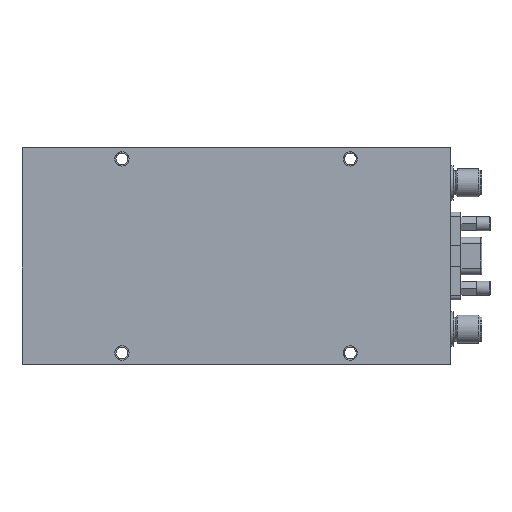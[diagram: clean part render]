
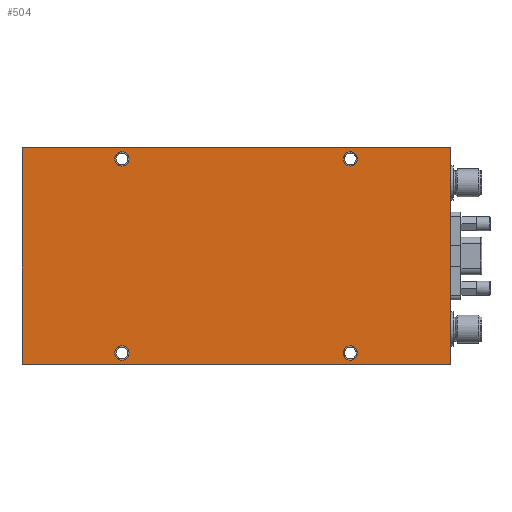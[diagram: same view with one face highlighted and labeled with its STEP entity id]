
A CAD part, top view. The second image highlights one B-rep face of the part: STEP entity #504.
In plain terms, the highlighted planar face has unit normal (0, 0, 1).
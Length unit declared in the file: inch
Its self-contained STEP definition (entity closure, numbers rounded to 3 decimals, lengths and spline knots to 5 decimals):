
#135=CARTESIAN_POINT('',(1.0625,-0.85,0.493));
#136=VERTEX_POINT('',#135);
#137=CARTESIAN_POINT('',(1.0,-0.85,0.493));
#138=DIRECTION('',(0.0,0.0,-1.0));
#139=DIRECTION('',(-1.0,0.0,0.0));
#140=AXIS2_PLACEMENT_3D('',#137,#138,#139);
#141=CIRCLE('',#140,0.0625);
#142=EDGE_CURVE('',#136,#136,#141,.T.);
#183=CARTESIAN_POINT('',(-0.9375,0.85,0.493));
#184=VERTEX_POINT('',#183);
#185=CARTESIAN_POINT('',(-1.0,0.85,0.493));
#186=DIRECTION('',(0.0,0.0,-1.0));
#187=DIRECTION('',(-1.0,0.0,0.0));
#188=AXIS2_PLACEMENT_3D('',#185,#186,#187);
#189=CIRCLE('',#188,0.0625);
#190=EDGE_CURVE('',#184,#184,#189,.T.);
#231=CARTESIAN_POINT('',(1.0625,0.85,0.493));
#232=VERTEX_POINT('',#231);
#233=CARTESIAN_POINT('',(1.0,0.85,0.493));
#234=DIRECTION('',(0.0,0.0,-1.0));
#235=DIRECTION('',(-1.0,0.0,0.0));
#236=AXIS2_PLACEMENT_3D('',#233,#234,#235);
#237=CIRCLE('',#236,0.0625);
#238=EDGE_CURVE('',#232,#232,#237,.T.);
#279=CARTESIAN_POINT('',(-0.9375,-0.85,0.493));
#280=VERTEX_POINT('',#279);
#281=CARTESIAN_POINT('',(-1.0,-0.85,0.493));
#282=DIRECTION('',(0.0,0.0,-1.0));
#283=DIRECTION('',(-1.0,0.0,0.0));
#284=AXIS2_PLACEMENT_3D('',#281,#282,#283);
#285=CIRCLE('',#284,0.0625);
#286=EDGE_CURVE('',#280,#280,#285,.T.);
#391=CARTESIAN_POINT('',(-1.875,0.95,0.493));
#392=VERTEX_POINT('',#391);
#399=CARTESIAN_POINT('',(1.875,0.95,0.493));
#400=VERTEX_POINT('',#399);
#401=CARTESIAN_POINT('',(1.875,0.95,0.493));
#402=DIRECTION('',(-1.0,0.0,0.0));
#403=VECTOR('',#402,3.75);
#404=LINE('',#401,#403);
#405=EDGE_CURVE('',#400,#392,#404,.T.);
#423=CARTESIAN_POINT('',(1.875,-0.95,0.493));
#424=VERTEX_POINT('',#423);
#425=CARTESIAN_POINT('',(1.875,-0.95,0.493));
#426=DIRECTION('',(0.0,1.0,0.0));
#427=VECTOR('',#426,1.9);
#428=LINE('',#425,#427);
#429=EDGE_CURVE('',#424,#400,#428,.T.);
#447=CARTESIAN_POINT('',(-1.875,-0.95,0.493));
#448=VERTEX_POINT('',#447);
#449=CARTESIAN_POINT('',(-1.875,-0.95,0.493));
#450=DIRECTION('',(1.0,0.0,0.0));
#451=VECTOR('',#450,3.75);
#452=LINE('',#449,#451);
#453=EDGE_CURVE('',#448,#424,#452,.T.);
#471=CARTESIAN_POINT('',(-1.875,0.95,0.493));
#472=DIRECTION('',(0.0,-1.0,0.0));
#473=VECTOR('',#472,1.9);
#474=LINE('',#471,#473);
#475=EDGE_CURVE('',#392,#448,#474,.T.);
#481=CARTESIAN_POINT('',(0.0,0.0,0.493));
#482=DIRECTION('',(0.0,0.0,1.0));
#483=DIRECTION('',(1.0,0.0,0.0));
#484=AXIS2_PLACEMENT_3D('',#481,#482,#483);
#485=PLANE('',#484);
#486=ORIENTED_EDGE('',*,*,#475,.T.);
#487=ORIENTED_EDGE('',*,*,#453,.T.);
#488=ORIENTED_EDGE('',*,*,#429,.T.);
#489=ORIENTED_EDGE('',*,*,#405,.T.);
#490=EDGE_LOOP('',(#486,#487,#488,#489));
#491=FACE_OUTER_BOUND('',#490,.T.);
#492=ORIENTED_EDGE('',*,*,#142,.T.);
#493=EDGE_LOOP('',(#492));
#494=FACE_BOUND('',#493,.T.);
#495=ORIENTED_EDGE('',*,*,#190,.T.);
#496=EDGE_LOOP('',(#495));
#497=FACE_BOUND('',#496,.T.);
#498=ORIENTED_EDGE('',*,*,#238,.T.);
#499=EDGE_LOOP('',(#498));
#500=FACE_BOUND('',#499,.T.);
#501=ORIENTED_EDGE('',*,*,#286,.T.);
#502=EDGE_LOOP('',(#501));
#503=FACE_BOUND('',#502,.T.);
#504=ADVANCED_FACE('',(#491,#494,#497,#500,#503),#485,.T.);
